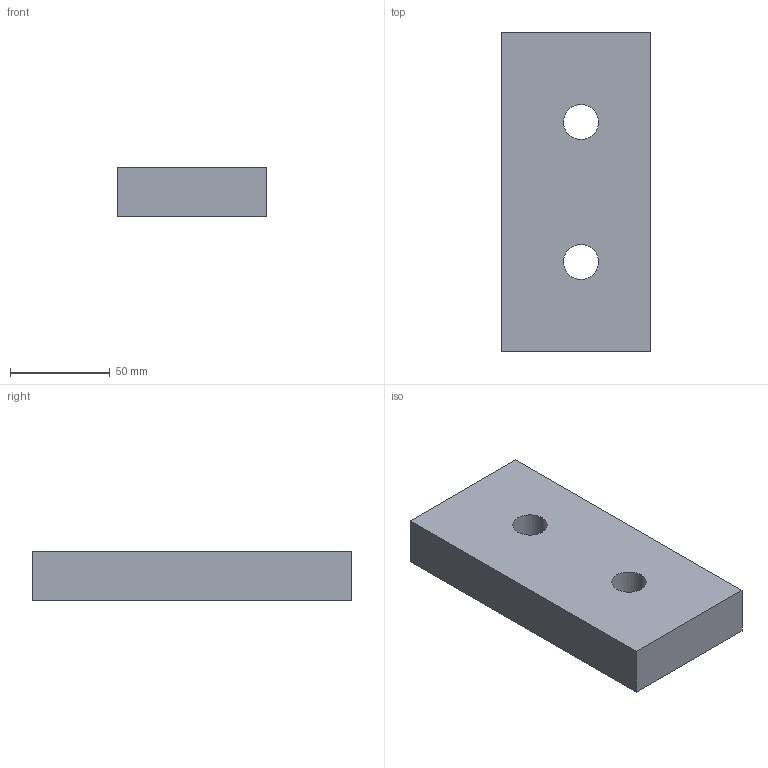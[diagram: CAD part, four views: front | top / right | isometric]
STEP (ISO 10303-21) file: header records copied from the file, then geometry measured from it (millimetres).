
FILE_DESCRIPTION (( 'STEP AP214' ), '1' );
FILE_NAME ('SW225-09-75x160.STEP', '2020-10-27T08:32:35', ( 'August' ), ( '' ), 'SwSTEP 2.0', 'SolidWorks 2018', '' );
FILE_SCHEMA (( 'AUTOMOTIVE_DESIGN' ));
Length unit declared in the file: millimetre
Products named in the file (1): SW225-09-75x160
Bounding box: 75 x 160 x 25 mm (x, y, z)
Volume: 287973.6 mm3; surface area: 37536.8 mm2
Topology: 1 solids, 1 shells, 10 faces, 24 edges, 16 vertices
Faces by surface type: plane 6, cylinder 4
Entity records: 338 total; most frequent: DIRECTION 54, CARTESIAN_POINT 51, ORIENTED_EDGE 48, EDGE_CURVE 24, AXIS2_PLACEMENT_3D 19, LINE 16, VERTEX_POINT 16, VECTOR 16
